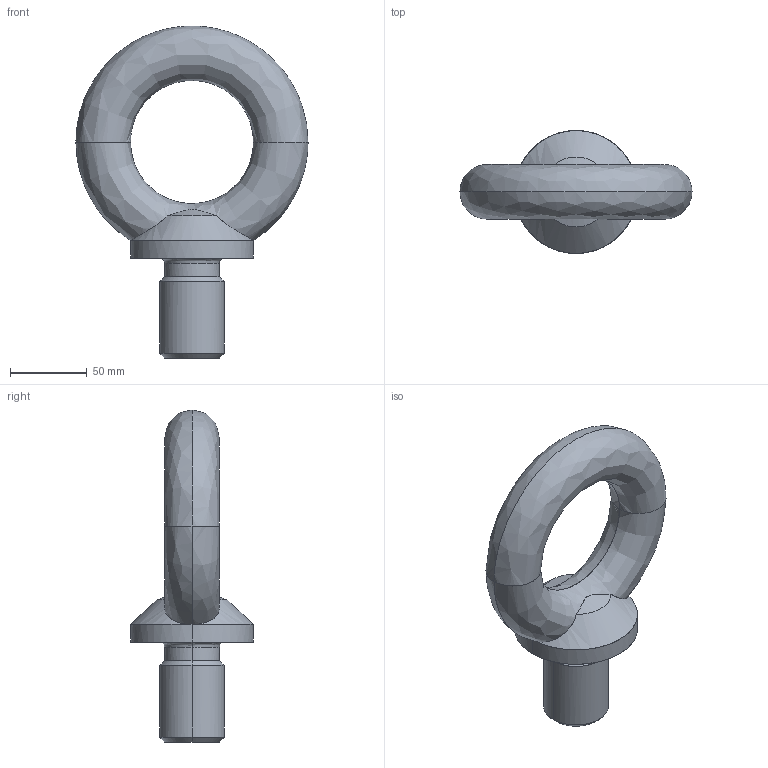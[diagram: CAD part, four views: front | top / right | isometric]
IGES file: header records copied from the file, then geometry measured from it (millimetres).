
Global section: file name: E:\UnigraphicsGraphicData\MISUMI_PRESS-PARTS\IGES\3d_chi42_03533_r00.igs; native system: NX V5.0; preprocessor: UGS NX IGES V5.0; author: MISUMI; date: 20110105.160219; units: millimetre
Bounding box: 151 x 80 x 215.99 mm (x, y, z)
Surface area: 55628.3 mm2 (no closed solid volume)
Topology: 0 solids, 0 shells, 22 faces, 164 edges, 164 vertices
Faces by surface type: bspline 22
